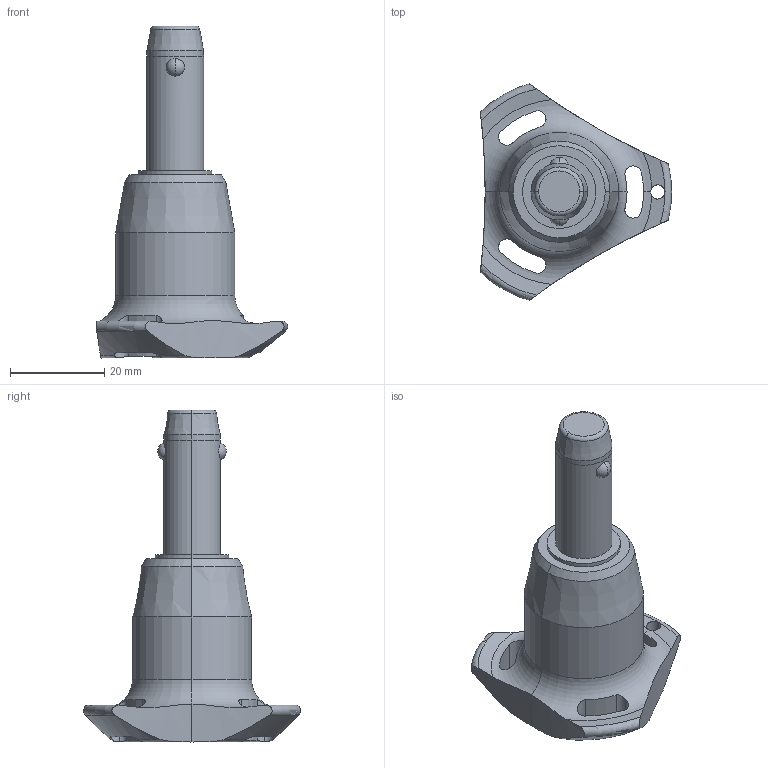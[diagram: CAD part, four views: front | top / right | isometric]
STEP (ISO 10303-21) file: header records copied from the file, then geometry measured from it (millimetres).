
FILE_DESCRIPTION (( 'STEP AP203' ), '1' );
FILE_NAME ('QR1726.M12-020-T.step', '2025-11-13T11:13:31', ( '' ), ( '' ), 'SwSTEP 2.0', 'SolidWorks 2019', '' );
FILE_SCHEMA (( 'CONFIG_CONTROL_DESIGN' ));
Length unit declared in the file: millimetre
Products named in the file (1): QR1726.M12-020-T
Bounding box: 40.5 x 45.88 x 70.3 mm (x, y, z)
Volume: 24035.9 mm3; surface area: 7027.3 mm2
Topology: 1 solids, 1 shells, 68 faces, 183 edges, 116 vertices
Faces by surface type: cylinder 32, cone 14, torus 11, sphere 6, plane 5
Entity records: 2915 total; most frequent: CARTESIAN_POINT 1162, ORIENTED_EDGE 366, DIRECTION 346, EDGE_CURVE 183, AXIS2_PLACEMENT_3D 154, VERTEX_POINT 116, CIRCLE 85, EDGE_LOOP 75
